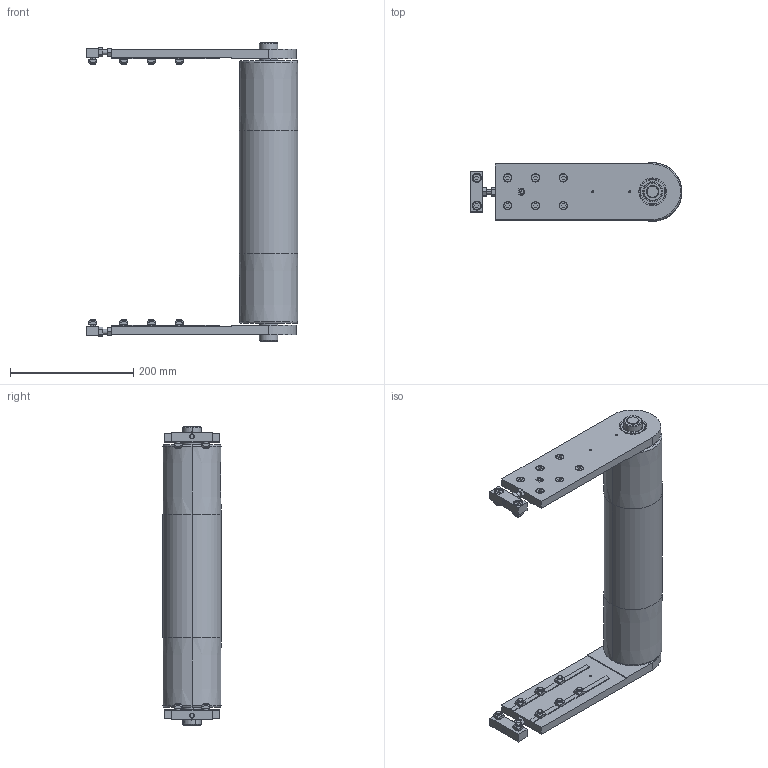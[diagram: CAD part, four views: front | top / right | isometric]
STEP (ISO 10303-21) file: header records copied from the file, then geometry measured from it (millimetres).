
FILE_DESCRIPTION (( 'STEP AP203' ), '1' );
FILE_NAME ('084.095.KI.400.STEP', '2013-10-17T07:34:33', ( '' ), ( '' ), 'SwSTEP 2.0', 'SolidWorks 2011', '' );
FILE_SCHEMA (( 'CONFIG_CONTROL_DESIGN' ));
Length unit declared in the file: millimetre
Products named in the file (10): 084.816.107_084.816.107<A macchina>; 084.812.003; 084.808.002_084.808.002; 084.810.003; 084.802.019_084.802.019; 084.803.003; Circlip DIN 471 - 30 x 1.5_Circlip DIN 471 - 30 x 1.5; 084.095.KI.400; 084.301.000 VITI ALUSIC_084.301.003; 084.302.000 DADI ALUSIC 13x13_084.302.004
Assembly tree (45 placements, depth 2):
  084.095.KI.400
    084.301.000 VITI ALUSIC_084.301.003  x16
    084.302.000 DADI ALUSIC 13x13_084.302.004  x16
    Circlip DIN 471 - 30 x 1.5_Circlip DIN 471 - 30 x 1.5  x2
    084.812.003  x2
    084.808.002_084.808.002  x2
    084.803.003  x2
    084.802.019_084.802.019  x2
    084.810.003  x2
    084.816.107_084.816.107<A macchina>
Bounding box: 343.5 x 95 x 485 mm (x, y, z)
Volume: 1719980.1 mm3; surface area: 676585.3 mm2
Topology: 51 solids, 53 shells, 1074 faces, 2612 edges, 1702 vertices
Faces by surface type: plane 499, cylinder 347, torus 108, cone 64, bspline 48, sphere 8
Entity records: 14202 total; most frequent: CARTESIAN_POINT 2603, DIRECTION 2122, ORIENTED_EDGE 1920, EDGE_CURVE 960, AXIS2_PLACEMENT_3D 833, VERTEX_POINT 630, VECTOR 456, LINE 456
